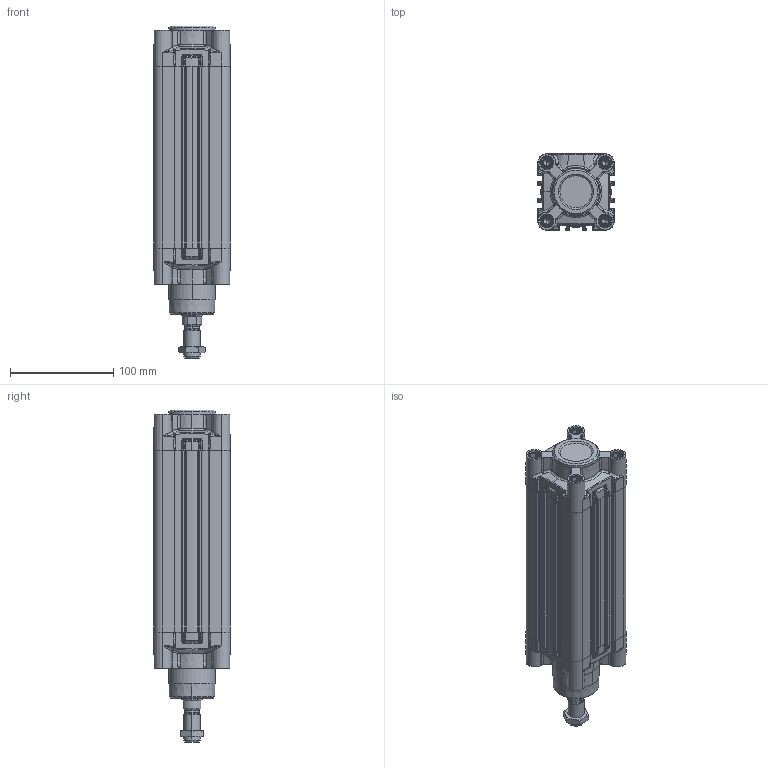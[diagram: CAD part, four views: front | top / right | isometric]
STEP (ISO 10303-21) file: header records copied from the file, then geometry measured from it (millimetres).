
FILE_DESCRIPTION (( 'STEP AP203' ), '1' );
FILE_NAME ('XB0630100A.step', '2012-10-17T18:37:36', ( '' ), ( '' ), 'SwSTEP 2.0', 'SolidWorks 2012', '' );
FILE_SCHEMA (( 'CONFIG_CONTROL_DESIGN' ));
Products named in the file (1): XB0630100A
Bounding box: 73.98 x 73.98 x 321.5 mm (x, y, z)
Volume: 789403 mm3; surface area: 215008.9 mm2
Topology: 13 solids, 13 shells, 1338 faces, 3368 edges, 2057 vertices
Faces by surface type: bspline 431, cylinder 358, plane 339, cone 210
Entity records: 62319 total; most frequent: CARTESIAN_POINT 34139, ORIENTED_EDGE 6648, DIRECTION 4799, EDGE_CURVE 3324, VERTEX_POINT 2057, AXIS2_PLACEMENT_3D 1785, EDGE_LOOP 1411, FACE_OUTER_BOUND 1338
